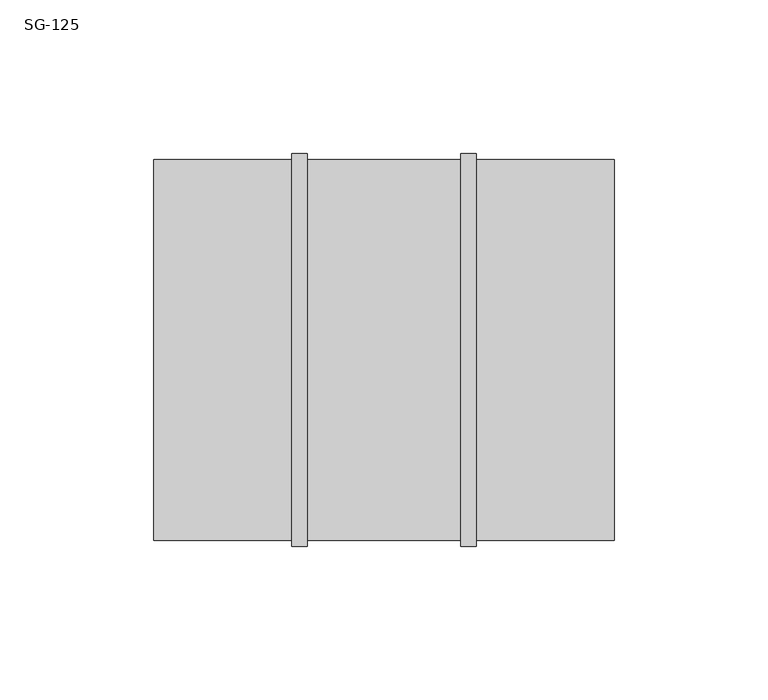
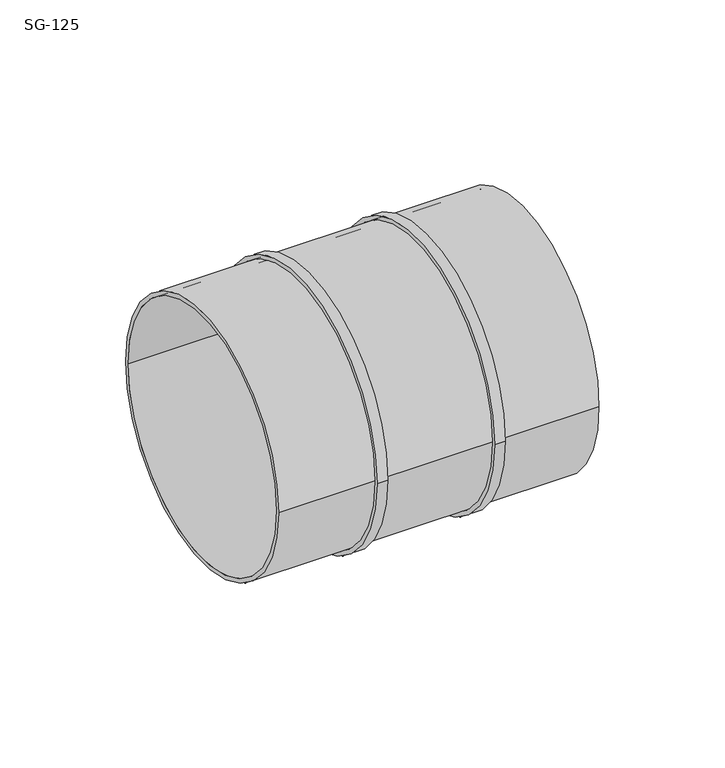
"""IFC4 building model written with IfcOpenShell, lengths in millimetres: damper geometry, СВ_ГибкаяВставка_КанальнаяКруглая_DN100-315_SG : SG-125."""

from ifc_helpers import new_model, si_unit, point, frame, origin, origin_2d, place, context, project, spatial, circle_curve, trimmed, segment, composite_curve, outline, extrude, source, transform, mapped, element, save


def sg_125_f85b66b8(model_context):
    return source(origin(), model_context, "Body", "SweptSolid", [
        extrude(outline(composite_curve([segment(trimmed(circle_curve(origin_2d(), 64.0), [point((-64.0, 0.0))], [point((64.0, 0.0))], False, "CARTESIAN"), True, "CONTINUOUS"), segment(trimmed(circle_curve(origin_2d(), 64.0), [point((64.0, 0.0))], [point((-64.0, 0.0))], False, "CARTESIAN"), True, "CONTINUOUS")], self_intersect=False), holes=[composite_curve([segment(trimmed(circle_curve(origin_2d(), 62.0), [point((-62.0, 0.0))], [point((62.0, 0.0))], True, "CARTESIAN"), True, "CONTINUOUS"), segment(trimmed(circle_curve(origin_2d(), 62.0), [point((62.0, 0.0))], [point((-62.0, 0.0))], True, "CARTESIAN"), True, "CONTINUOUS")], self_intersect=False)]), frame((25.0, 0.0, 0.0), z_axis=(1.0, 0.0, 0.0), x_axis=(0.0, 1.0, 0.0)), (0.0, 0.0, 1.0), 5.0),
        extrude(outline(composite_curve([segment(trimmed(circle_curve(origin_2d(), 64.0), [point((-64.0, 0.0))], [point((64.0, 0.0))], False, "CARTESIAN"), True, "CONTINUOUS"), segment(trimmed(circle_curve(origin_2d(), 64.0), [point((64.0, 0.0))], [point((-64.0, 0.0))], False, "CARTESIAN"), True, "CONTINUOUS")], self_intersect=False), holes=[composite_curve([segment(trimmed(circle_curve(origin_2d(), 62.0), [point((-62.0, 0.0))], [point((62.0, 0.0))], True, "CARTESIAN"), True, "CONTINUOUS"), segment(trimmed(circle_curve(origin_2d(), 62.0), [point((62.0, 0.0))], [point((-62.0, 0.0))], True, "CARTESIAN"), True, "CONTINUOUS")], self_intersect=False)]), frame((-30.0, 0.0, 0.0), z_axis=(1.0, 0.0, 0.0), x_axis=(0.0, 1.0, 0.0)), (0.0, 0.0, 1.0), 5.0),
        extrude(outline(composite_curve([segment(trimmed(circle_curve(origin_2d(), 62.0), [point((-62.0, 0.0))], [point((62.0, 0.0))], False, "CARTESIAN"), True, "CONTINUOUS"), segment(trimmed(circle_curve(origin_2d(), 62.0), [point((62.0, 0.0))], [point((-62.0, 0.0))], False, "CARTESIAN"), True, "CONTINUOUS")], self_intersect=False), holes=[composite_curve([segment(trimmed(circle_curve(origin_2d(), 60.0), [point((-60.0, 0.0))], [point((60.0, 0.0))], True, "CARTESIAN"), True, "CONTINUOUS"), segment(trimmed(circle_curve(origin_2d(), 60.0), [point((60.0, 0.0))], [point((-60.0, 0.0))], True, "CARTESIAN"), True, "CONTINUOUS")], self_intersect=False)]), frame((-75.0, 0.0, 0.0), z_axis=(1.0, 0.0, 0.0), x_axis=(0.0, 1.0, 0.0)), (0.0, 0.0, 1.0), 150.0),
    ])


if __name__ == "__main__":
    model = new_model("IFC4")
    model_context = context("Model", 3, world=origin())
    ifc_project = project(units=[si_unit("LENGTHUNIT", "METRE", prefix="MILLI")], contexts=[model_context])
    site = spatial("IfcSite", under=ifc_project)
    building = spatial("IfcBuilding", under=site)
    placement = place(None, origin())
    sg_125_shape = sg_125_f85b66b8(model_context)
    element("IfcDamper", 1, ObjectType="СВ_ГибкаяВставка_КанальнаяКруглая_DN100-315_SG : SG-125", at=placement, inside=building, context=model_context, shape_type="MappedRepresentation", body=[
        mapped(sg_125_shape, transform((0.0, 0.0, 0.0), x_axis=(1.0, 0.0, 0.0), y_axis=(0.0, 1.0, 0.0), z_axis=(0.0, 0.0, 1.0))),
    ])
    save(model, "model.ifc")
